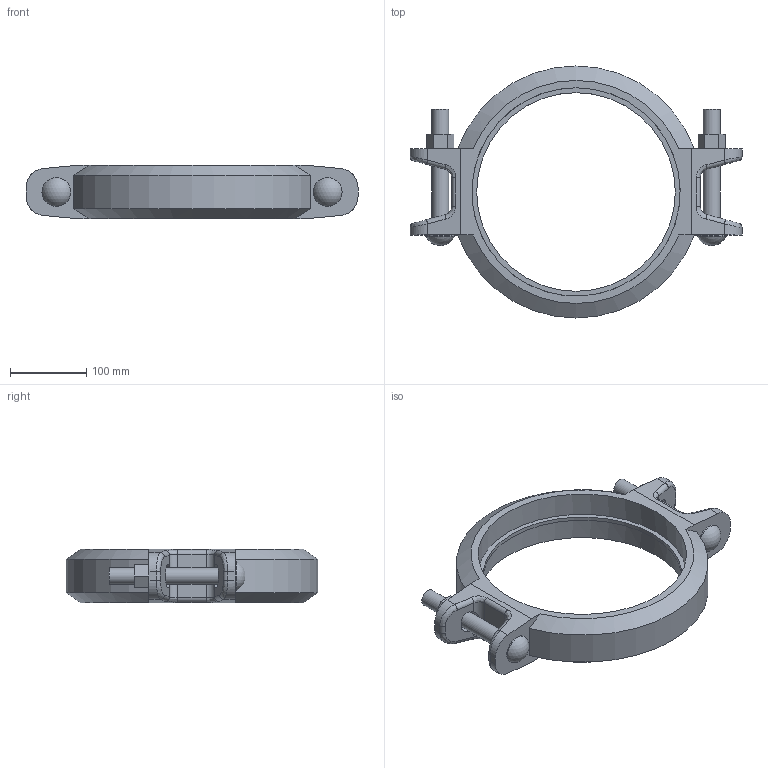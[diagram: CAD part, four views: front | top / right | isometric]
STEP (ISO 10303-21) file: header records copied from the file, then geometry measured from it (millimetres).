
FILE_DESCRIPTION(/* description */ ('QUICKVIC RIGID COUPLING FOR STEEL STYLE 107N','CAx-IF Rec.Pracs.---Representation and Presentation of Product Manufacturing Information (PMI)---4.0---2014-10-13'),/* implementation_level */ '2;1');
FILE_NAME(/* name */ 'C:\Users\Vjadhav\Desktop\CAD for Inventor\1\Coupling bolt thickness\107N\STEP\Victaulic_IPS_Coupling Rigid_Style 107N (OGS)\Victaulic_IPS_Coupling Rigid_Style 107N (OGS)_10 (250).stp',/* time_stamp */ '2022-03-28T14:19:48+06:00',/* author */ ('jheald'),/* organization */ ('Victaulic'),/* preprocessor_version */ 'ST-DEVELOPER v17.2',/* originating_system */ 'Autodesk Inventor 2019',/* authorisation */ '');
FILE_SCHEMA (('AP242_MANAGED_MODEL_BASED_3D_ENGINEERING_MIM_LF { 1 0 10303 442 1 1 4 }'));
Length unit declared in the file: inch
Products named in the file (1): 107N-10.0
Bounding box: 435.1 x 330.2 x 69.85 mm (x, y, z)
Volume: 2125351.7 mm3; surface area: 245606.3 mm2
Topology: 1 solids, 1 shells, 119 faces, 315 edges, 202 vertices
Faces by surface type: plane 50, cylinder 47, bspline 16, cone 4, sphere 2
Full cylindrical faces by diameter (mm): 22.225 x4, 37.694 x2, 260.35 x1, 273.05 x2
Entity records: 4596 total; most frequent: CARTESIAN_POINT 1342, DIRECTION 663, ORIENTED_EDGE 630, EDGE_CURVE 315, AXIS2_PLACEMENT_3D 247, VERTEX_POINT 202, LINE 169, VECTOR 169
